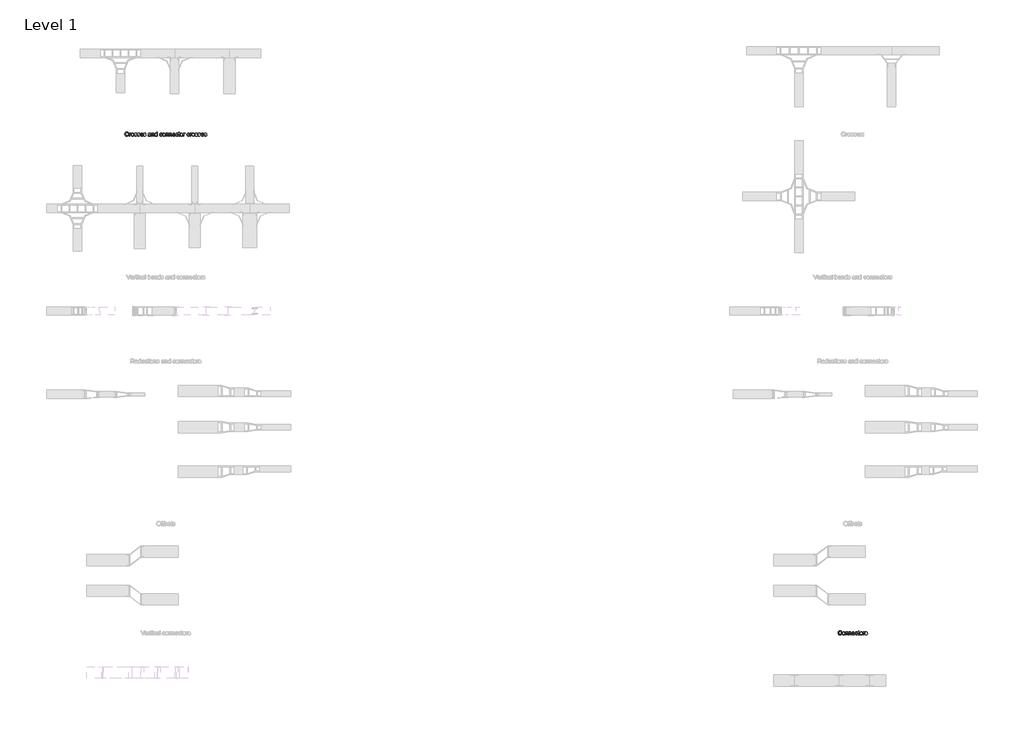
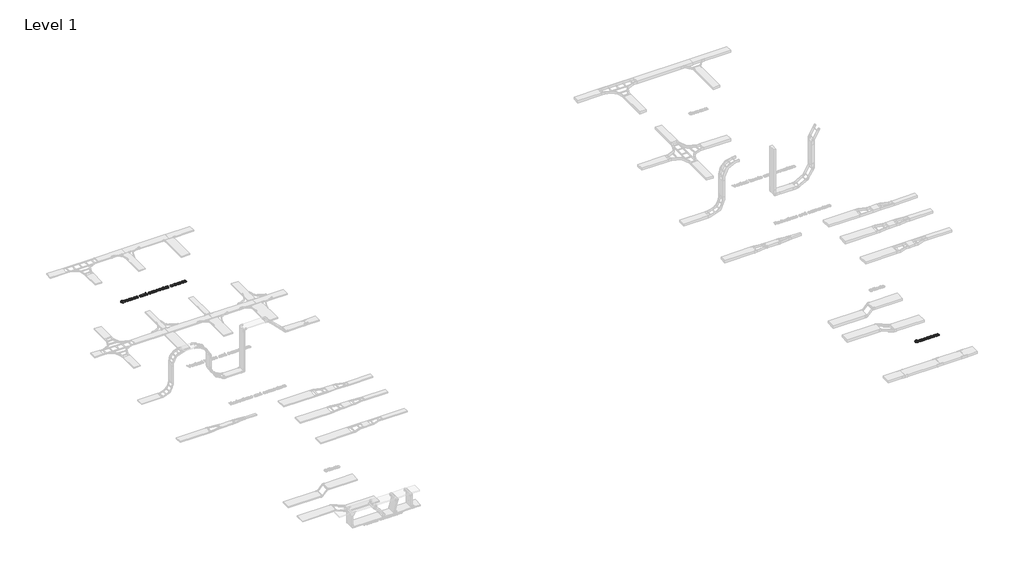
# One storey, part 69 of 106: 2 proxies.
"""IFC4 building model written with IfcOpenShell, lengths in millimetres."""

from ifc_helpers import new_model, si_unit, origin, origin_with_axes, place, context, project, spatial, polyline, outline, extrude, element, save

model = new_model("IFC4")

# Units and contexts
model_context = context("Model", 3, world=origin())
ifc_project = project(units=[si_unit("LENGTHUNIT", "METRE", prefix="MILLI")], contexts=[model_context])

# Site, building, storey
site = spatial("IfcSite", under=ifc_project)
building = spatial("IfcBuilding", under=site)
storey = spatial("IfcBuildingStorey", under=building, Name="Level 1", Elevation=0.0)

# Proxies
placement = place(None, origin())
element("IfcBuildingElementProxy", 1, Name="150mm Arial 2", ObjectType="150mm Arial 2", at=placement, inside=storey, context=model_context, shape_type="SweptSolid", body=[
    extrude(outline(polyline([(54473.187076, 62501.4112533), (54492.0226342, 62496.5552109), (54483.331422, 62474.6064514), (54469.6921971, 62458.5713949), (54451.7763439, 62448.7627412), (54430.2552472, 62445.49319), (54408.4076552, 62447.9671964), (54391.0574206, 62455.3892157), (54377.7584865, 62467.5017304), (54368.0647959, 62484.0472231), (54362.1464943, 62503.4989836), (54360.1737271, 62524.3303016), (54362.4040117, 62546.3020537), (54369.0948655, 62565.2755676), (54379.8968006, 62580.6484365), (54394.460329, 62591.8182536), (54411.7323887, 62598.619472), (54430.6599174, 62600.8865448), (54451.3118929, 62597.9526859), (54468.386216, 62589.1511091), (54481.3494578, 62575.0244405), (54489.6681894, 62556.115306), (54470.8326312, 62551.6271456), (54464.3027258, 62565.3629396), (54455.3815874, 62574.7853172), (54443.9588515, 62580.2345693), (54429.9241534, 62582.0509866), (54413.7465426, 62580.0368327), (54400.4568056, 62573.9943709), (54390.3722404, 62564.5581977), (54383.8101453, 62552.3629096), (54379.0092852, 62524.3670898), (54380.4302295, 62506.9662714), (54384.6930621, 62491.9198978), (54391.9587315, 62479.8027846), (54402.388186, 62471.1897474), (54414.8915754, 62466.043998), (54428.379049, 62464.3287482), (54444.1014058, 62466.6647988), (54457.2026033, 62473.6729508), (54467.0940305, 62485.2796278), (54473.187076, 62501.4112533)])), origin_with_axes(), (0.0, 0.0, 1.0), 15.0),
    extrude(outline(polyline([(54515.5670819, 62447.8476348), (54515.5670819, 62558.5065389), (54532.0481952, 62558.5065389), (54532.0481952, 62542.1357901), (54543.7468427, 62557.2189519), (54555.5190665, 62560.8609837), (54574.4282011, 62555.0484482), (54568.137419, 62538.1626646), (54554.8936671, 62542.0254255), (54544.2434834, 62538.3098174), (54537.4560606, 62528.0091215), (54534.40264, 62506.0097782), (54534.40264, 62447.8476348), (54515.5670819, 62447.8476348)])), origin_with_axes(), (0.0, 0.0, 1.0), 15.0),
    extrude(outline(polyline([(54581.4915354, 62503.1770869), (54585.5658285, 62529.8577286), (54597.7887078, 62548.6105133), (54612.8902637, 62557.7983661), (54630.9716637, 62560.8609837), (54650.7591166, 62557.13158), (54666.5642468, 62545.9433688), (54676.9247235, 62528.179267), (54680.3782157, 62504.7221912), (54678.8515054, 62485.693495), (54674.2713746, 62471.2081415), (54666.7711804, 62460.3602211), (54656.4842801, 62452.2438246), (54644.2659993, 62447.1808487), (54630.9716637, 62445.49319), (54610.9450876, 62449.2087982), (54595.1583515, 62460.3556226), (54584.9082394, 62478.492205), (54581.4915354, 62503.1770869)]), holes=[polyline([(54600.3270935, 62503.2138751), (54602.5067944, 62486.1671431), (54609.0458968, 62474.0224387), (54618.8867402, 62466.7521708), (54630.9716637, 62464.3287482), (54643.001405, 62466.7659664), (54652.8238543, 62474.077621), (54659.3629567, 62486.3832738), (54661.5426575, 62503.8024862), (54659.3491611, 62520.3525775), (54652.768672, 62532.331735), (54642.9324271, 62539.6020029), (54630.9716637, 62542.0254255), (54618.8867402, 62539.6112), (54609.0458968, 62532.3685232), (54602.5067944, 62520.25141), (54600.3270935, 62503.2138751)])]), origin_with_axes(), (0.0, 0.0, 1.0), 15.0),
    extrude(outline(polyline([(54694.5048843, 62480.8098615), (54713.3404425, 62483.1643063), (54716.3110896, 62475.1076906), (54722.0592457, 62469.1847905), (54742.0352381, 62464.3287482), (54761.2386782, 62468.7801203), (54767.4926722, 62479.227969), (54765.9199766, 62484.028829), (54761.20189, 62487.6892549), (54741.8145089, 62493.060332), (54713.4508071, 62502.275776), (54701.0715779, 62513.0363243), (54696.8593291, 62528.2298507), (54700.2438434, 62542.2645488), (54709.4776815, 62552.988309), (54721.4522405, 62558.5617212), (54737.6574423, 62560.8609837), (54760.5764906, 62557.1637696), (54775.1446177, 62547.1573794), (54781.6193408, 62530.2532017), (54762.7837826, 62527.8987569), (54755.7020542, 62538.2914233), (54739.1289703, 62542.0254255), (54721.1027526, 62538.4569702), (54715.6948872, 62530.1428371), (54717.9389674, 62524.6613954), (54724.9655135, 62520.5043288), (54741.1891095, 62516.4944151), (54768.8354414, 62507.628459), (54781.6745231, 62497.5852805), (54786.3282303, 62481.2145317), (54780.8651827, 62463.188314), (54765.1014392, 62450.1101091), (54741.7777207, 62445.49319), (54722.7858127, 62447.7188761), (54708.9258585, 62454.3959343), (54699.6736263, 62465.4507882), (54694.5048843, 62480.8098615)])), origin_with_axes(), (0.0, 0.0, 1.0), 15.0),
    extrude(outline(polyline([(54800.4548989, 62480.8098615), (54819.2904571, 62483.1643063), (54822.2611042, 62475.1076906), (54828.0092604, 62469.1847905), (54847.9852527, 62464.3287482), (54867.1886928, 62468.7801203), (54873.4426868, 62479.227969), (54871.8699912, 62484.028829), (54867.1519046, 62487.6892549), (54847.7645235, 62493.060332), (54819.4008217, 62502.275776), (54807.0215925, 62513.0363243), (54802.8093437, 62528.2298507), (54806.193858, 62542.2645488), (54815.4276961, 62552.988309), (54827.4022551, 62558.5617212), (54843.607457, 62560.8609837), (54866.5265053, 62557.1637696), (54881.0946323, 62547.1573794), (54887.5693554, 62530.2532017), (54868.7337972, 62527.8987569), (54861.6520688, 62538.2914233), (54845.0789849, 62542.0254255), (54827.0527672, 62538.4569702), (54821.6449018, 62530.1428371), (54823.888982, 62524.6613954), (54830.9155281, 62520.5043288), (54847.1391241, 62516.4944151), (54874.785456, 62507.628459), (54887.6245377, 62497.5852805), (54892.2782449, 62481.2145317), (54886.8151973, 62463.188314), (54871.0514538, 62450.1101091), (54847.7277353, 62445.49319), (54828.7358273, 62447.7188761), (54814.8758731, 62454.3959343), (54805.623641, 62465.4507882), (54800.4548989, 62480.8098615)])), origin_with_axes(), (0.0, 0.0, 1.0), 15.0),
    extrude(outline(polyline([(54990.944196, 62480.8098615), (55009.4118722, 62478.4554168), (55002.7578066, 62464.5402803), (54992.1398125, 62454.1384169), (54977.7970132, 62447.6544967), (54959.968532, 62445.49319), (54937.8680212, 62449.2225937), (54920.8626759, 62460.4108049), (54910.0193541, 62478.3312566), (54906.4049135, 62502.2573819), (54910.0561423, 62526.988249), (54921.0098287, 62545.4835163), (54937.7852477, 62557.0166168), (54958.9016742, 62560.8609837), (54979.3605117, 62557.0258139), (54995.7082679, 62545.5203045), (55006.4274295, 62527.0618254), (55010.0004834, 62502.3677465), (55009.8901188, 62497.2909749), (54925.2404717, 62497.2909749), (54928.5008259, 62483.1918975), (54936.0745964, 62472.8268223), (54947.0052902, 62466.4532667), (54960.336414, 62464.3287482), (54978.8040902, 62468.2650855), (54990.944196, 62480.8098615)]), holes=[polyline([(54925.2404717, 62516.1265331), (54991.1649252, 62516.1265331), (54988.6173424, 62526.0777411), (54983.6233443, 62533.1962577), (54972.6420668, 62539.8181336), (54958.8280978, 62542.0254255), (54946.1315705, 62540.2641905), (54935.633138, 62534.9804853), (54928.335279, 62526.7445272), (54925.2404717, 62516.1265331)])]), origin_with_axes(), (0.0, 0.0, 1.0), 15.0),
    extrude(outline(polyline([(55021.7727072, 62480.8098615), (55040.6082654, 62483.1643063), (55043.5789125, 62475.1076906), (55049.3270687, 62469.1847905), (55069.303061, 62464.3287482), (55088.5065011, 62468.7801203), (55094.7604951, 62479.227969), (55093.1877995, 62484.028829), (55088.4697129, 62487.6892549), (55069.0823318, 62493.060332), (55040.71863, 62502.275776), (55028.3394008, 62513.0363243), (55024.127152, 62528.2298507), (55027.5116663, 62542.2645488), (55036.7455044, 62552.988309), (55048.7200634, 62558.5617212), (55064.9252653, 62560.8609837), (55087.8443136, 62557.1637696), (55102.4124406, 62547.1573794), (55108.8871637, 62530.2532017), (55090.0516055, 62527.8987569), (55082.9698771, 62538.2914233), (55066.3967932, 62542.0254255), (55048.3705755, 62538.4569702), (55042.9627101, 62530.1428371), (55045.2067903, 62524.6613954), (55052.2333364, 62520.5043288), (55068.4569324, 62516.4944151), (55096.1032643, 62507.628459), (55108.942346, 62497.5852805), (55113.5960532, 62481.2145317), (55108.1330056, 62463.188314), (55092.3692621, 62450.1101091), (55069.0455436, 62445.49319), (55050.0536356, 62447.7188761), (55036.1936814, 62454.3959343), (55026.9414493, 62465.4507882), (55021.7727072, 62480.8098615)])), origin_with_axes(), (0.0, 0.0, 1.0), 15.0),
    extrude(outline(polyline([(55264.2805184, 62461.9743034), (55246.0151774, 62449.2087982), (55225.8368499, 62445.49319), (55210.0960991, 62447.7280731), (55198.4848236, 62454.4327225), (55191.3249203, 62464.6138567), (55188.9382858, 62477.2781944), (55192.5435294, 62492.1774152), (55202.0164908, 62502.9931459), (55215.2050603, 62509.1735634), (55231.5022327, 62512.0062547), (55264.1701538, 62518.4809779), (55264.2805184, 62522.6748326), (55262.9837344, 62531.0809362), (55259.0933823, 62536.580772), (55250.3929731, 62540.6642622), (55238.2712614, 62542.0254255), (55219.214974, 62538.4017879), (55210.1282887, 62525.5443122), (55191.2927306, 62527.8987569), (55199.4413168, 62546.2928567), (55215.8488538, 62557.0717991), (55240.6992825, 62560.8609837), (55263.5263603, 62557.5132575), (55276.4206243, 62549.107154), (55282.1963716, 62536.3232546), (55283.1160766, 62519.8421412), (55283.1160766, 62496.4080581), (55284.0725698, 62463.6849547), (55287.8249661, 62447.8476348), (55268.989408, 62447.8476348), (55264.2805184, 62461.9743034)]), holes=[polyline([(55264.2805184, 62499.6454197), (55233.8934656, 62493.8696724), (55217.6882638, 62490.8162518), (55210.3490179, 62485.8498449), (55207.773844, 62478.6025696), (55213.3840444, 62468.4122383), (55229.8467637, 62464.3287482), (55248.903051, 62468.8353026), (55261.1903097, 62479.7430038), (55264.1701538, 62494.3111308), (55264.2805184, 62499.6454197)])]), origin_with_axes(), (0.0, 0.0, 1.0), 15.0),
    extrude(outline(polyline([(55309.0149691, 62447.8476348), (55309.0149691, 62558.5065389), (55327.8505272, 62558.5065389), (55327.8505272, 62543.0554951), (55342.2531073, 62556.4096116), (55361.9164, 62560.8609837), (55379.7034944, 62557.2741342), (55391.8436003, 62547.8563552), (55397.4905889, 62534.0055981), (55398.4838703, 62515.7954393), (55398.4838703, 62447.8476348), (55379.6483121, 62447.8476348), (55379.6483121, 62513.2570535), (55377.4778084, 62529.9221079), (55369.8074688, 62538.7328817), (55356.8764166, 62542.0254255), (55345.8445553, 62540.1768185), (55336.4405718, 62534.6309974), (55329.9980384, 62523.9164343), (55327.8505272, 62506.5616012), (55327.8505272, 62447.8476348), (55309.0149691, 62447.8476348)])), origin_with_axes(), (0.0, 0.0, 1.0), 15.0),
    extrude(outline(polyline([(55492.661661, 62447.8476348), (55492.661661, 62465.6163351), (55480.1996585, 62450.5239763), (55462.973584, 62445.49319), (55450.79669, 62447.3142059), (55439.6498655, 62452.7772535), (55430.2136924, 62461.5006553), (55423.1687522, 62473.1027337), (55418.7817594, 62487.1144392), (55417.3194284, 62503.0667223), (55422.7088997, 62533.0491049), (55429.4411402, 62544.9408904), (55438.8589193, 62553.6872848), (55450.2494655, 62559.067559), (55462.9000076, 62560.8609837), (55480.2640378, 62555.7290299), (55492.661661, 62542.3933075), (55492.661661, 62598.5321), (55511.4972192, 62598.5321), (55511.4972192, 62447.8476348), (55492.661661, 62447.8476348)]), holes=[polyline([(55436.1549866, 62503.1402987), (55438.2795051, 62486.1027638), (55444.6530607, 62473.9856505), (55453.9144899, 62466.7429738), (55464.7026294, 62464.3287482), (55475.4861704, 62466.6326092), (55484.5130749, 62473.5441921), (55490.6245145, 62485.1922558), (55492.661661, 62501.7055589), (55490.5877263, 62519.7593678), (55484.3659221, 62532.2765527), (55475.1090914, 62539.5882073), (55463.9300772, 62542.0254255), (55453.0315731, 62539.6847764), (55444.1012377, 62532.6628288), (55438.1415494, 62520.6008979), (55436.1549866, 62503.1402987)])]), origin_with_axes(), (0.0, 0.0, 1.0), 15.0),
    extrude(outline(polyline([(55669.2450187, 62487.8731959), (55688.0805769, 62485.5187511), (55682.8290614, 62468.7663247), (55672.9606269, 62456.1065856), (55659.4041754, 62448.1465389), (55643.0886089, 62445.49319), (55623.0528357, 62449.1950026), (55607.3856612, 62460.3004403), (55597.2735049, 62478.3220596), (55593.9027861, 62502.7724167), (55595.3421244, 62519.5340401), (55599.6601393, 62534.0607803), (55606.9258087, 62545.7916175), (55617.2081105, 62554.1655314), (55629.5091647, 62559.1871206), (55642.8310915, 62560.8609837), (55658.7465863, 62558.5617212), (55671.4707048, 62551.6639338), (55680.5987768, 62540.5355035), (55685.7261321, 62525.5443122), (55666.890574, 62523.1898674), (55658.1533766, 62537.2981419), (55642.9782443, 62542.0254255), (55630.8059488, 62539.6985719), (55621.1444479, 62532.7180111), (55614.8398702, 62520.7066639), (55612.7383443, 62503.2874515), (55614.7938849, 62485.6337142), (55620.9605069, 62473.5809803), (55630.4472638, 62466.6418062), (55642.4632095, 62464.3287482), (55652.2166809, 62465.772685), (55660.2135157, 62470.1044955), (55666.0306498, 62477.4345442), (55669.2450187, 62487.8731959)])), origin_with_axes(), (0.0, 0.0, 1.0), 15.0),
    extrude(outline(polyline([(55699.8528007, 62503.1770869), (55703.9270938, 62529.8577286), (55716.1499731, 62548.6105133), (55731.251529, 62557.7983661), (55749.3329291, 62560.8609837), (55769.1203819, 62557.13158), (55784.9255121, 62545.9433688), (55795.2859888, 62528.179267), (55798.739481, 62504.7221912), (55797.2127708, 62485.693495), (55792.6326399, 62471.2081415), (55785.1324457, 62460.3602211), (55774.8455454, 62452.2438246), (55762.6272647, 62447.1808487), (55749.3329291, 62445.49319), (55729.306353, 62449.2087982), (55713.5196168, 62460.3556226), (55703.2695048, 62478.492205), (55699.8528007, 62503.1770869)]), holes=[polyline([(55718.6883589, 62503.2138751), (55720.8680597, 62486.1671431), (55727.4071622, 62474.0224387), (55737.2480055, 62466.7521708), (55749.3329291, 62464.3287482), (55761.3626703, 62466.7659664), (55771.1851196, 62474.077621), (55777.7242221, 62486.3832738), (55779.9039229, 62503.8024862), (55777.7104265, 62520.3525775), (55771.1299373, 62532.331735), (55761.2936924, 62539.6020029), (55749.3329291, 62542.0254255), (55737.2480055, 62539.6112), (55727.4071622, 62532.3685232), (55720.8680597, 62520.25141), (55718.6883589, 62503.2138751)])]), origin_with_axes(), (0.0, 0.0, 1.0), 15.0),
    extrude(outline(polyline([(55819.929484, 62447.8476348), (55819.929484, 62558.5065389), (55838.7650421, 62558.5065389), (55838.7650421, 62543.0554951), (55853.1676222, 62556.4096116), (55872.8309149, 62560.8609837), (55890.6180093, 62557.2741342), (55902.7581152, 62547.8563552), (55908.4051038, 62534.0055981), (55909.3983852, 62515.7954393), (55909.3983852, 62447.8476348), (55890.562827, 62447.8476348), (55890.562827, 62513.2570535), (55888.3923233, 62529.9221079), (55880.7219837, 62538.7328817), (55867.7909315, 62542.0254255), (55856.7590702, 62540.1768185), (55847.3550867, 62534.6309974), (55840.9125533, 62523.9164343), (55838.7650421, 62506.5616012), (55838.7650421, 62447.8476348), (55819.929484, 62447.8476348)])), origin_with_axes(), (0.0, 0.0, 1.0), 15.0),
    extrude(outline(polyline([(55935.2972776, 62447.8476348), (55935.2972776, 62558.5065389), (55954.1328358, 62558.5065389), (55954.1328358, 62543.0554951), (55968.5354159, 62556.4096116), (55988.1987085, 62560.8609837), (56005.985803, 62557.2741342), (56018.1259089, 62547.8563552), (56023.7728975, 62534.0055981), (56024.7661789, 62515.7954393), (56024.7661789, 62447.8476348), (56005.9306207, 62447.8476348), (56005.9306207, 62513.2570535), (56003.7601169, 62529.9221079), (55996.0897773, 62538.7328817), (55983.1587252, 62542.0254255), (55972.1268639, 62540.1768185), (55962.7228804, 62534.6309974), (55956.2803469, 62523.9164343), (55954.1328358, 62506.5616012), (55954.1328358, 62447.8476348), (55935.2972776, 62447.8476348)])), origin_with_axes(), (0.0, 0.0, 1.0), 15.0),
    extrude(outline(polyline([(56128.1410195, 62480.8098615), (56146.6086957, 62478.4554168), (56139.9546301, 62464.5402803), (56129.336636, 62454.1384169), (56114.9938367, 62447.6544967), (56097.1653555, 62445.49319), (56075.0648447, 62449.2225937), (56058.0594994, 62460.4108049), (56047.2161776, 62478.3312566), (56043.601737, 62502.2573819), (56047.2529658, 62526.988249), (56058.2066522, 62545.4835163), (56074.9820712, 62557.0166168), (56096.0984977, 62560.8609837), (56116.5573352, 62557.0258139), (56132.9050914, 62545.5203045), (56143.624253, 62527.0618254), (56147.1973069, 62502.3677465), (56147.0869423, 62497.2909749), (56062.4372952, 62497.2909749), (56065.6976494, 62483.1918975), (56073.2714199, 62472.8268223), (56084.2021137, 62466.4532667), (56097.5332375, 62464.3287482), (56116.0009137, 62468.2650855), (56128.1410195, 62480.8098615)]), holes=[polyline([(56062.4372952, 62516.1265331), (56128.3617487, 62516.1265331), (56125.8141659, 62526.0777411), (56120.8201678, 62533.1962577), (56109.8388903, 62539.8181336), (56096.0249213, 62542.0254255), (56083.328394, 62540.2641905), (56072.8299615, 62534.9804853), (56065.5321025, 62526.7445272), (56062.4372952, 62516.1265331)])]), origin_with_axes(), (0.0, 0.0, 1.0), 15.0),
    extrude(outline(polyline([(56236.6662081, 62487.8731959), (56255.5017662, 62485.5187511), (56250.2502508, 62468.7663247), (56240.3818162, 62456.1065856), (56226.8253647, 62448.1465389), (56210.5097982, 62445.49319), (56190.4740251, 62449.1950026), (56174.8068506, 62460.3004403), (56164.6946943, 62478.3220596), (56161.3239755, 62502.7724167), (56162.7633138, 62519.5340401), (56167.0813287, 62534.0607803), (56174.3469981, 62545.7916175), (56184.6292999, 62554.1655314), (56196.9303541, 62559.1871206), (56210.2522808, 62560.8609837), (56226.1677757, 62558.5617212), (56238.8918942, 62551.6639338), (56248.0199662, 62540.5355035), (56253.1473215, 62525.5443122), (56234.3117633, 62523.1898674), (56225.5745659, 62537.2981419), (56210.3994336, 62542.0254255), (56198.2271381, 62539.6985719), (56188.5656372, 62532.7180111), (56182.2610595, 62520.7066639), (56180.1595336, 62503.2874515), (56182.2150743, 62485.6337142), (56188.3816962, 62473.5809803), (56197.8684532, 62466.6418062), (56209.8843988, 62464.3287482), (56219.6378702, 62465.772685), (56227.6347051, 62470.1044955), (56233.4518392, 62477.4345442), (56236.6662081, 62487.8731959)])), origin_with_axes(), (0.0, 0.0, 1.0), 15.0),
    extrude(outline(polyline([(56312.0084407, 62463.556196), (56314.3628855, 62447.2958118), (56300.2730051, 62445.49319), (56284.4908675, 62448.620187), (56276.6181928, 62456.8239555), (56274.3373244, 62478.1978994), (56274.3373244, 62539.6709808), (56260.2106558, 62539.6709808), (56260.2106558, 62558.5065389), (56274.3373244, 62558.5065389), (56274.3373244, 62585.3987128), (56293.1728826, 62596.4719608), (56293.1728826, 62558.5065389), (56312.0084407, 62558.5065389), (56312.0084407, 62539.6709808), (56293.1728826, 62539.6709808), (56293.1728826, 62478.7497224), (56294.1661639, 62469.0376377), (56297.3851314, 62465.597941), (56303.8046722, 62464.3287482), (56312.0084407, 62463.556196)])), origin_with_axes(), (0.0, 0.0, 1.0), 15.0),
    extrude(outline(polyline([(56326.1351093, 62503.1770869), (56330.2094024, 62529.8577286), (56342.4322817, 62548.6105133), (56357.5338376, 62557.7983661), (56375.6152377, 62560.8609837), (56395.4026905, 62557.13158), (56411.2078207, 62545.9433688), (56421.5682974, 62528.179267), (56425.0217896, 62504.7221912), (56423.4950793, 62485.693495), (56418.9149485, 62471.2081415), (56411.4147543, 62460.3602211), (56401.127854, 62452.2438246), (56388.9095733, 62447.1808487), (56375.6152377, 62445.49319), (56355.5886616, 62449.2087982), (56339.8019254, 62460.3556226), (56329.5518133, 62478.492205), (56326.1351093, 62503.1770869)]), holes=[polyline([(56344.9706675, 62503.2138751), (56347.1503683, 62486.1671431), (56353.6894708, 62474.0224387), (56363.5303141, 62466.7521708), (56375.6152377, 62464.3287482), (56387.6449789, 62466.7659664), (56397.4674282, 62474.077621), (56404.0065306, 62486.3832738), (56406.1862315, 62503.8024862), (56403.9927351, 62520.3525775), (56397.4122459, 62532.331735), (56387.576001, 62539.6020029), (56375.6152377, 62542.0254255), (56363.5303141, 62539.6112), (56353.6894708, 62532.3685232), (56347.1503683, 62520.25141), (56344.9706675, 62503.2138751)])]), origin_with_axes(), (0.0, 0.0, 1.0), 15.0),
    extrude(outline(polyline([(56446.2117925, 62447.8476348), (56446.2117925, 62558.5065389), (56462.6929059, 62558.5065389), (56462.6929059, 62542.1357901), (56474.3915534, 62557.2189519), (56486.1637772, 62560.8609837), (56505.0729118, 62555.0484482), (56498.7821297, 62538.1626646), (56485.5383778, 62542.0254255), (56474.8881941, 62538.3098174), (56468.1007713, 62528.0091215), (56465.0473507, 62506.0097782), (56465.0473507, 62447.8476348), (56446.2117925, 62447.8476348)])), origin_with_axes(), (0.0, 0.0, 1.0), 15.0),
    extrude(outline(polyline([(56646.3395979, 62487.8731959), (56665.1751561, 62485.5187511), (56659.9236406, 62468.7663247), (56650.0552061, 62456.1065856), (56636.4987545, 62448.1465389), (56620.1831881, 62445.49319), (56600.1474149, 62449.1950026), (56584.4802404, 62460.3004403), (56574.3680841, 62478.3220596), (56570.9973653, 62502.7724167), (56572.4367036, 62519.5340401), (56576.7547185, 62534.0607803), (56584.0203879, 62545.7916175), (56594.3026897, 62554.1655314), (56606.6037439, 62559.1871206), (56619.9256707, 62560.8609837), (56635.8411655, 62558.5617212), (56648.565284, 62551.6639338), (56657.693356, 62540.5355035), (56662.8207113, 62525.5443122), (56643.9851532, 62523.1898674), (56635.2479558, 62537.2981419), (56620.0728235, 62542.0254255), (56607.9005279, 62539.6985719), (56598.2390271, 62532.7180111), (56591.9344494, 62520.7066639), (56589.8329235, 62503.2874515), (56591.8884641, 62485.6337142), (56598.0550861, 62473.5809803), (56607.541843, 62466.6418062), (56619.5577887, 62464.3287482), (56629.3112601, 62465.772685), (56637.3080949, 62470.1044955), (56643.125229, 62477.4345442), (56646.3395979, 62487.8731959)])), origin_with_axes(), (0.0, 0.0, 1.0), 15.0),
    extrude(outline(polyline([(56681.6562695, 62447.8476348), (56681.6562695, 62558.5065389), (56698.1373828, 62558.5065389), (56698.1373828, 62542.1357901), (56709.8360303, 62557.2189519), (56721.6082541, 62560.8609837), (56740.5173887, 62555.0484482), (56734.2266066, 62538.1626646), (56720.9828547, 62542.0254255), (56710.332671, 62538.3098174), (56703.5452482, 62528.0091215), (56700.4918276, 62506.0097782), (56700.4918276, 62447.8476348), (56681.6562695, 62447.8476348)])), origin_with_axes(), (0.0, 0.0, 1.0), 15.0),
    extrude(outline(polyline([(56747.580723, 62503.1770869), (56751.6550161, 62529.8577286), (56763.8778954, 62548.6105133), (56778.9794513, 62557.7983661), (56797.0608513, 62560.8609837), (56816.8483042, 62557.13158), (56832.6534344, 62545.9433688), (56843.0139111, 62528.179267), (56846.4674033, 62504.7221912), (56844.940693, 62485.693495), (56840.3605622, 62471.2081415), (56832.860368, 62460.3602211), (56822.5734677, 62452.2438246), (56810.3551869, 62447.1808487), (56797.0608513, 62445.49319), (56777.0342752, 62449.2087982), (56761.2475391, 62460.3556226), (56750.997427, 62478.492205), (56747.580723, 62503.1770869)]), holes=[polyline([(56766.4162811, 62503.2138751), (56768.595982, 62486.1671431), (56775.1350844, 62474.0224387), (56784.9759278, 62466.7521708), (56797.0608513, 62464.3287482), (56809.0905926, 62466.7659664), (56818.9130419, 62474.077621), (56825.4521443, 62486.3832738), (56827.6318451, 62503.8024862), (56825.4383487, 62520.3525775), (56818.8578596, 62532.331735), (56809.0216147, 62539.6020029), (56797.0608513, 62542.0254255), (56784.9759278, 62539.6112), (56775.1350844, 62532.3685232), (56768.595982, 62520.25141), (56766.4162811, 62503.2138751)])]), origin_with_axes(), (0.0, 0.0, 1.0), 15.0),
    extrude(outline(polyline([(56860.5940719, 62480.8098615), (56879.4296301, 62483.1643063), (56882.4002772, 62475.1076906), (56888.1484333, 62469.1847905), (56908.1244257, 62464.3287482), (56927.3278658, 62468.7801203), (56933.5818598, 62479.227969), (56932.0091642, 62484.028829), (56927.2910776, 62487.6892549), (56907.9036965, 62493.060332), (56879.5399947, 62502.275776), (56867.1607655, 62513.0363243), (56862.9485167, 62528.2298507), (56866.333031, 62542.2645488), (56875.5668691, 62552.988309), (56887.5414281, 62558.5617212), (56903.7466299, 62560.8609837), (56926.6656782, 62557.1637696), (56941.2338053, 62547.1573794), (56947.7085284, 62530.2532017), (56928.8729702, 62527.8987569), (56921.7912418, 62538.2914233), (56905.2181579, 62542.0254255), (56887.1919402, 62538.4569702), (56881.7840748, 62530.1428371), (56884.028155, 62524.6613954), (56891.0547011, 62520.5043288), (56907.2782971, 62516.4944151), (56934.924629, 62507.628459), (56947.7637107, 62497.5852805), (56952.4174179, 62481.2145317), (56946.9543703, 62463.188314), (56931.1906268, 62450.1101091), (56907.8669083, 62445.49319), (56888.8750003, 62447.7188761), (56875.0150461, 62454.3959343), (56865.7628139, 62465.4507882), (56860.5940719, 62480.8098615)])), origin_with_axes(), (0.0, 0.0, 1.0), 15.0),
    extrude(outline(polyline([(56966.5440865, 62480.8098615), (56985.3796447, 62483.1643063), (56988.3502918, 62475.1076906), (56994.098448, 62469.1847905), (57014.0744403, 62464.3287482), (57033.2778804, 62468.7801203), (57039.5318744, 62479.227969), (57037.9591788, 62484.028829), (57033.2410922, 62487.6892549), (57013.8537111, 62493.060332), (56985.4900093, 62502.275776), (56973.1107801, 62513.0363243), (56968.8985313, 62528.2298507), (56972.2830456, 62542.2645488), (56981.5168837, 62552.988309), (56993.4914427, 62558.5617212), (57009.6966446, 62560.8609837), (57032.6156929, 62557.1637696), (57047.1838199, 62547.1573794), (57053.658543, 62530.2532017), (57034.8229848, 62527.8987569), (57027.7412564, 62538.2914233), (57011.1681725, 62542.0254255), (56993.1419548, 62538.4569702), (56987.7340894, 62530.1428371), (56989.9781696, 62524.6613954), (56997.0047157, 62520.5043288), (57013.2283117, 62516.4944151), (57040.8746436, 62507.628459), (57053.7137253, 62497.5852805), (57058.3674325, 62481.2145317), (57052.9043849, 62463.188314), (57037.1406414, 62450.1101091), (57013.8169229, 62445.49319), (56994.8250149, 62447.7188761), (56980.9650607, 62454.3959343), (56971.7128286, 62465.4507882), (56966.5440865, 62480.8098615)])), origin_with_axes(), (0.0, 0.0, 1.0), 15.0),
    extrude(outline(polyline([(57157.0333836, 62480.8098615), (57175.5010598, 62478.4554168), (57168.8469942, 62464.5402803), (57158.2290001, 62454.1384169), (57143.8862008, 62447.6544967), (57126.0577196, 62445.49319), (57103.9572088, 62449.2225937), (57086.9518635, 62460.4108049), (57076.1085417, 62478.3312566), (57072.4941011, 62502.2573819), (57076.1453299, 62526.988249), (57087.0990163, 62545.4835163), (57103.8744353, 62557.0166168), (57124.9908618, 62560.8609837), (57145.4496993, 62557.0258139), (57161.7974555, 62545.5203045), (57172.5166171, 62527.0618254), (57176.089671, 62502.3677465), (57175.9793064, 62497.2909749), (57091.3296593, 62497.2909749), (57094.5900135, 62483.1918975), (57102.163784, 62472.8268223), (57113.0944778, 62466.4532667), (57126.4256016, 62464.3287482), (57144.8932778, 62468.2650855), (57157.0333836, 62480.8098615)]), holes=[polyline([(57091.3296593, 62516.1265331), (57157.2541128, 62516.1265331), (57154.70653, 62526.0777411), (57149.7125319, 62533.1962577), (57138.7312544, 62539.8181336), (57124.9172854, 62542.0254255), (57112.2207581, 62540.2641905), (57101.7223256, 62534.9804853), (57094.4244666, 62526.7445272), (57091.3296593, 62516.1265331)])]), origin_with_axes(), (0.0, 0.0, 1.0), 15.0),
    extrude(outline(polyline([(57187.8618948, 62480.8098615), (57206.697453, 62483.1643063), (57209.6681001, 62475.1076906), (57215.4162563, 62469.1847905), (57235.3922486, 62464.3287482), (57254.5956887, 62468.7801203), (57260.8496827, 62479.227969), (57259.2769871, 62484.028829), (57254.5589005, 62487.6892549), (57235.1715194, 62493.060332), (57206.8078176, 62502.275776), (57194.4285884, 62513.0363243), (57190.2163396, 62528.2298507), (57193.6008539, 62542.2645488), (57202.834692, 62552.988309), (57214.809251, 62558.5617212), (57231.0144529, 62560.8609837), (57253.9335012, 62557.1637696), (57268.5016282, 62547.1573794), (57274.9763513, 62530.2532017), (57256.1407931, 62527.8987569), (57249.0590647, 62538.2914233), (57232.4859808, 62542.0254255), (57214.4597631, 62538.4569702), (57209.0518977, 62530.1428371), (57211.2959779, 62524.6613954), (57218.322524, 62520.5043288), (57234.54612, 62516.4944151), (57262.1924519, 62507.628459), (57275.0315336, 62497.5852805), (57279.6852408, 62481.2145317), (57274.2221932, 62463.188314), (57258.4584497, 62450.1101091), (57235.1347312, 62445.49319), (57216.1428232, 62447.7188761), (57202.282869, 62454.3959343), (57193.0306369, 62465.4507882), (57187.8618948, 62480.8098615)])), origin_with_axes(), (0.0, 0.0, 1.0), 15.0),
])
element("IfcBuildingElementProxy", 2, Name="150mm Arial 2", ObjectType="150mm Arial 2", at=placement, inside=storey, context=model_context, shape_type="SweptSolid", body=[
    extrude(outline(polyline([(79906.724427, 44701.4112533), (79925.5599851, 44696.5552109), (79916.868773, 44674.6064514), (79903.229548, 44658.5713949), (79885.3136949, 44648.7627412), (79863.7925981, 44645.49319), (79841.9450061, 44647.9671964), (79824.5947715, 44655.3892157), (79811.2958374, 44667.5017304), (79801.6021469, 44684.0472231), (79795.6838453, 44703.4989836), (79793.7110781, 44724.3303016), (79795.9413626, 44746.3020537), (79802.6322164, 44765.2755676), (79813.4341515, 44780.6484365), (79827.99768, 44791.8182536), (79845.2697397, 44798.619472), (79864.1972683, 44800.8865448), (79884.8492438, 44797.9526859), (79901.9235669, 44789.1511091), (79914.8868087, 44775.0244405), (79923.2055404, 44756.115306), (79904.3699822, 44751.6271456), (79897.8400768, 44765.3629396), (79888.9189384, 44774.7853172), (79877.4962025, 44780.2345693), (79863.4615043, 44782.0509866), (79847.2838936, 44780.0368327), (79833.9941565, 44773.9943709), (79823.9095913, 44764.5581977), (79817.3474962, 44752.3629096), (79812.5466362, 44724.3670898), (79813.9675804, 44706.9662714), (79818.230413, 44691.9198978), (79825.4960824, 44679.8027846), (79835.925537, 44671.1897474), (79848.4289263, 44666.043998), (79861.9164, 44664.3287482), (79877.6387567, 44666.6647988), (79890.7399543, 44673.6729508), (79900.6313814, 44685.2796278), (79906.724427, 44701.4112533)])), origin_with_axes(), (0.0, 0.0, 1.0), 15.0),
    extrude(outline(polyline([(79944.3955433, 44703.1770869), (79948.4698364, 44729.8577286), (79960.6927157, 44748.6105133), (79975.7942716, 44757.7983661), (79993.8756716, 44760.8609837), (80013.6631244, 44757.13158), (80029.4682547, 44745.9433688), (80039.8287314, 44728.179267), (80043.2822236, 44704.7221912), (80041.7555133, 44685.693495), (80037.1753825, 44671.2081415), (80029.6751883, 44660.3602211), (80019.388288, 44652.2438246), (80007.1700072, 44647.1808487), (79993.8756716, 44645.49319), (79973.8490955, 44649.2087982), (79958.0623594, 44660.3556226), (79947.8122473, 44678.492205), (79944.3955433, 44703.1770869)]), holes=[polyline([(79963.2311014, 44703.2138751), (79965.4108023, 44686.1671431), (79971.9499047, 44674.0224387), (79981.7907481, 44666.7521708), (79993.8756716, 44664.3287482), (80005.9054129, 44666.7659664), (80015.7278621, 44674.077621), (80022.2669646, 44686.3832738), (80024.4466654, 44703.8024862), (80022.253169, 44720.3525775), (80015.6726798, 44732.331735), (80005.836435, 44739.6020029), (79993.8756716, 44742.0254255), (79981.7907481, 44739.6112), (79971.9499047, 44732.3685232), (79965.4108023, 44720.25141), (79963.2311014, 44703.2138751)])]), origin_with_axes(), (0.0, 0.0, 1.0), 15.0),
    extrude(outline(polyline([(80064.4722265, 44647.8476348), (80064.4722265, 44758.5065389), (80083.3077847, 44758.5065389), (80083.3077847, 44743.0554951), (80097.7103648, 44756.4096116), (80117.3736574, 44760.8609837), (80135.1607519, 44757.2741342), (80147.3008577, 44747.8563552), (80152.9478463, 44734.0055981), (80153.9411277, 44715.7954393), (80153.9411277, 44647.8476348), (80135.1055696, 44647.8476348), (80135.1055696, 44713.2570535), (80132.9350658, 44729.9221079), (80125.2647262, 44738.7328817), (80112.3336741, 44742.0254255), (80101.3018127, 44740.1768185), (80091.8978292, 44734.6309974), (80085.4552958, 44723.9164343), (80083.3077847, 44706.5616012), (80083.3077847, 44647.8476348), (80064.4722265, 44647.8476348)])), origin_with_axes(), (0.0, 0.0, 1.0), 15.0),
    extrude(outline(polyline([(80179.8400202, 44647.8476348), (80179.8400202, 44758.5065389), (80198.6755783, 44758.5065389), (80198.6755783, 44743.0554951), (80213.0781585, 44756.4096116), (80232.7414511, 44760.8609837), (80250.5285456, 44757.2741342), (80262.6686514, 44747.8563552), (80268.31564, 44734.0055981), (80269.3089214, 44715.7954393), (80269.3089214, 44647.8476348), (80250.4733633, 44647.8476348), (80250.4733633, 44713.2570535), (80248.3028595, 44729.9221079), (80240.6325199, 44738.7328817), (80227.7014678, 44742.0254255), (80216.6696064, 44740.1768185), (80207.2656229, 44734.6309974), (80200.8230895, 44723.9164343), (80198.6755783, 44706.5616012), (80198.6755783, 44647.8476348), (80179.8400202, 44647.8476348)])), origin_with_axes(), (0.0, 0.0, 1.0), 15.0),
    extrude(outline(polyline([(80372.6837621, 44680.8098615), (80391.1514382, 44678.4554168), (80384.4973726, 44664.5402803), (80373.8793785, 44654.1384169), (80359.5365793, 44647.6544967), (80341.7080981, 44645.49319), (80319.6075872, 44649.2225937), (80302.602242, 44660.4108049), (80291.7589202, 44678.3312566), (80288.1444796, 44702.2573819), (80291.7957084, 44726.988249), (80302.7493948, 44745.4835163), (80319.5248138, 44757.0166168), (80340.6412403, 44760.8609837), (80361.1000777, 44757.0258139), (80377.4478339, 44745.5203045), (80388.1669955, 44727.0618254), (80391.7400494, 44702.3677465), (80391.6296848, 44697.2909749), (80306.9800377, 44697.2909749), (80310.2403919, 44683.1918975), (80317.8141625, 44672.8268223), (80328.7448563, 44666.4532667), (80342.0759801, 44664.3287482), (80360.5436562, 44668.2650855), (80372.6837621, 44680.8098615)]), holes=[polyline([(80306.9800377, 44716.1265331), (80372.9044913, 44716.1265331), (80370.3569084, 44726.0777411), (80365.3629104, 44733.1962577), (80354.3816328, 44739.8181336), (80340.5676639, 44742.0254255), (80327.8711365, 44740.2641905), (80317.3727041, 44734.9804853), (80310.074845, 44726.7445272), (80306.9800377, 44716.1265331)])]), origin_with_axes(), (0.0, 0.0, 1.0), 15.0),
    extrude(outline(polyline([(80481.2089506, 44687.8731959), (80500.0445088, 44685.5187511), (80494.7929933, 44668.7663247), (80484.9245588, 44656.1065856), (80471.3681073, 44648.1465389), (80455.0525408, 44645.49319), (80435.0167676, 44649.1950026), (80419.3495932, 44660.3004403), (80409.2374368, 44678.3220596), (80405.866718, 44702.7724167), (80407.3060563, 44719.5340401), (80411.6240713, 44734.0607803), (80418.8897407, 44745.7916175), (80429.1720424, 44754.1655314), (80441.4730966, 44759.1871206), (80454.7950234, 44760.8609837), (80470.7105182, 44758.5617212), (80483.4346367, 44751.6639338), (80492.5627087, 44740.5355035), (80497.690064, 44725.5443122), (80478.8545059, 44723.1898674), (80470.1173085, 44737.2981419), (80454.9421762, 44742.0254255), (80442.7698807, 44739.6985719), (80433.1083798, 44732.7180111), (80426.8038021, 44720.7066639), (80424.7022762, 44703.2874515), (80426.7578168, 44685.6337142), (80432.9244388, 44673.5809803), (80442.4111957, 44666.6418062), (80454.4271414, 44664.3287482), (80464.1806128, 44665.772685), (80472.1774477, 44670.1044955), (80477.9945817, 44677.4345442), (80481.2089506, 44687.8731959)])), origin_with_axes(), (0.0, 0.0, 1.0), 15.0),
    extrude(outline(polyline([(80556.5511833, 44663.556196), (80558.905628, 44647.2958118), (80544.8157476, 44645.49319), (80529.03361, 44648.620187), (80521.1609353, 44656.8239555), (80518.8800669, 44678.1978994), (80518.8800669, 44739.6709808), (80504.7533983, 44739.6709808), (80504.7533983, 44758.5065389), (80518.8800669, 44758.5065389), (80518.8800669, 44785.3987128), (80537.7156251, 44796.4719608), (80537.7156251, 44758.5065389), (80556.5511833, 44758.5065389), (80556.5511833, 44739.6709808), (80537.7156251, 44739.6709808), (80537.7156251, 44678.7497224), (80538.7089065, 44669.0376377), (80541.9278739, 44665.597941), (80548.3474148, 44664.3287482), (80556.5511833, 44663.556196)])), origin_with_axes(), (0.0, 0.0, 1.0), 15.0),
    extrude(outline(polyline([(80570.6778519, 44703.1770869), (80574.752145, 44729.8577286), (80586.9750243, 44748.6105133), (80602.0765802, 44757.7983661), (80620.1579802, 44760.8609837), (80639.945433, 44757.13158), (80655.7505633, 44745.9433688), (80666.1110399, 44728.179267), (80669.5645322, 44704.7221912), (80668.0378219, 44685.693495), (80663.4576911, 44671.2081415), (80655.9574969, 44660.3602211), (80645.6705966, 44652.2438246), (80633.4523158, 44647.1808487), (80620.1579802, 44645.49319), (80600.1314041, 44649.2087982), (80584.344668, 44660.3556226), (80574.0945559, 44678.492205), (80570.6778519, 44703.1770869)]), holes=[polyline([(80589.51341, 44703.2138751), (80591.6931108, 44686.1671431), (80598.2322133, 44674.0224387), (80608.0730567, 44666.7521708), (80620.1579802, 44664.3287482), (80632.1877215, 44666.7659664), (80642.0101707, 44674.077621), (80648.5492732, 44686.3832738), (80650.728974, 44703.8024862), (80648.5354776, 44720.3525775), (80641.9549884, 44732.331735), (80632.1187436, 44739.6020029), (80620.1579802, 44742.0254255), (80608.0730567, 44739.6112), (80598.2322133, 44732.3685232), (80591.6931108, 44720.25141), (80589.51341, 44703.2138751)])]), origin_with_axes(), (0.0, 0.0, 1.0), 15.0),
    extrude(outline(polyline([(80690.7545351, 44647.8476348), (80690.7545351, 44758.5065389), (80707.2356485, 44758.5065389), (80707.2356485, 44742.1357901), (80718.9342959, 44757.2189519), (80730.7065198, 44760.8609837), (80749.6156543, 44755.0484482), (80743.3248722, 44738.1626646), (80730.0811204, 44742.0254255), (80719.4309366, 44738.3098174), (80712.6435138, 44728.0091215), (80709.5900932, 44706.0097782), (80709.5900932, 44647.8476348), (80690.7545351, 44647.8476348)])), origin_with_axes(), (0.0, 0.0, 1.0), 15.0),
    extrude(outline(polyline([(80754.3245439, 44680.8098615), (80773.160102, 44683.1643063), (80776.1307491, 44675.1076906), (80781.8789053, 44669.1847905), (80801.8548976, 44664.3287482), (80821.0583378, 44668.7801203), (80827.3123317, 44679.227969), (80825.7396362, 44684.028829), (80821.0215496, 44687.6892549), (80801.6341684, 44693.060332), (80773.2704666, 44702.275776), (80760.8912375, 44713.0363243), (80756.6789886, 44728.2298507), (80760.063503, 44742.2645488), (80769.2973411, 44752.988309), (80781.2719, 44758.5617212), (80797.4771019, 44760.8609837), (80820.3961502, 44757.1637696), (80834.9642772, 44747.1573794), (80841.4390003, 44730.2532017), (80822.6034422, 44727.8987569), (80815.5217138, 44738.2914233), (80798.9486299, 44742.0254255), (80780.9224121, 44738.4569702), (80775.5145468, 44730.1428371), (80777.758627, 44724.6613954), (80784.7851731, 44720.5043288), (80801.008769, 44716.4944151), (80828.655101, 44707.628459), (80841.4941826, 44697.5852805), (80846.1478899, 44681.2145317), (80840.6848422, 44663.188314), (80824.9210987, 44650.1101091), (80801.5973802, 44645.49319), (80782.6054722, 44647.7188761), (80768.7455181, 44654.3959343), (80759.4932859, 44665.4507882), (80754.3245439, 44680.8098615)])), origin_with_axes(), (0.0, 0.0, 1.0), 15.0),
])

save(model, "model.ifc")
